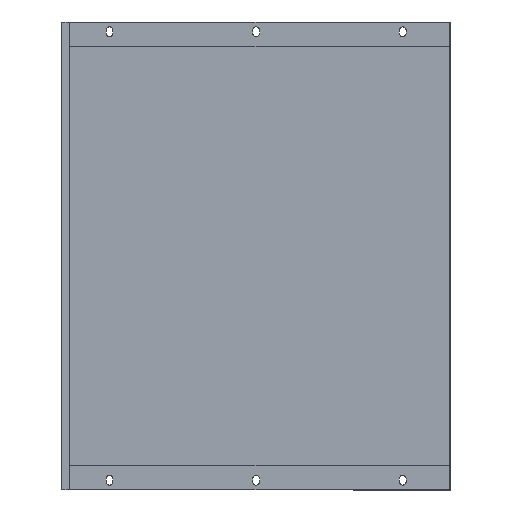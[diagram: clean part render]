
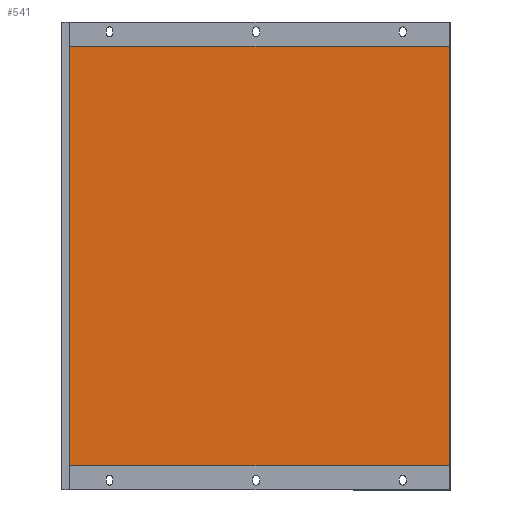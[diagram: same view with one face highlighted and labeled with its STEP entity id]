
A CAD part, front view. The second image highlights one B-rep face of the part: STEP entity #541.
In plain terms, the highlighted planar face has unit normal (0, -1, 0).
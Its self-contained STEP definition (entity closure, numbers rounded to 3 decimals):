
#42 = ORIENTED_EDGE ( 'NONE', *, *, #261, .T. ) ;
#114 = VERTEX_POINT ( 'NONE', #1220 ) ;
#120 = DIRECTION ( 'NONE',  ( 0., 1., 0. ) ) ;
#216 = LINE ( 'NONE', #869, #411 ) ;
#248 = VECTOR ( 'NONE', #563, 1000. ) ;
#261 = EDGE_CURVE ( 'NONE', #412, #114, #1106, .T. ) ;
#292 = VECTOR ( 'NONE', #1176, 1000. ) ;
#303 = VERTEX_POINT ( 'NONE', #1365 ) ;
#307 = VERTEX_POINT ( 'NONE', #830 ) ;
#374 = EDGE_CURVE ( 'NONE', #307, #114, #1060, .T. ) ;
#411 = VECTOR ( 'NONE', #739, 1000. ) ;
#412 = VERTEX_POINT ( 'NONE', #1259 ) ;
#541 = ADVANCED_FACE ( 'NONE', ( #679 ), #687, .F. ) ;
#563 = DIRECTION ( 'NONE',  ( 1., 0., 0. ) ) ;
#679 = FACE_OUTER_BOUND ( 'NONE', #879, .T. ) ;
#687 = PLANE ( 'NONE',  #1087 ) ;
#739 = DIRECTION ( 'NONE',  ( 0., 0., -1. ) ) ;
#830 = CARTESIAN_POINT ( 'NONE',  ( 388.6, 61.1, 454. ) ) ;
#833 = CARTESIAN_POINT ( 'NONE',  ( 0., 61.1, 454. ) ) ;
#868 = LINE ( 'NONE', #833, #1319 ) ;
#869 = CARTESIAN_POINT ( 'NONE',  ( -6.6, 61.1, 479. ) ) ;
#879 = EDGE_LOOP ( 'NONE', ( #1473, #920, #42, #1596 ) ) ;
#920 = ORIENTED_EDGE ( 'NONE', *, *, #1688, .T. ) ;
#948 = CARTESIAN_POINT ( 'NONE',  ( -8., 61.1, 479. ) ) ;
#1060 = LINE ( 'NONE', #1730, #292 ) ;
#1064 = EDGE_CURVE ( 'NONE', #307, #303, #868, .T. ) ;
#1087 = AXIS2_PLACEMENT_3D ( 'NONE', #948, #120, #1745 ) ;
#1106 = LINE ( 'NONE', #1671, #248 ) ;
#1176 = DIRECTION ( 'NONE',  ( 0., 0., -1. ) ) ;
#1220 = CARTESIAN_POINT ( 'NONE',  ( 388.6, 61.1, 25. ) ) ;
#1259 = CARTESIAN_POINT ( 'NONE',  ( -6.6, 61.1, 25. ) ) ;
#1319 = VECTOR ( 'NONE', #1524, 1000. ) ;
#1365 = CARTESIAN_POINT ( 'NONE',  ( -6.6, 61.1, 454. ) ) ;
#1473 = ORIENTED_EDGE ( 'NONE', *, *, #1064, .T. ) ;
#1524 = DIRECTION ( 'NONE',  ( -1., 0., 0. ) ) ;
#1596 = ORIENTED_EDGE ( 'NONE', *, *, #374, .F. ) ;
#1671 = CARTESIAN_POINT ( 'NONE',  ( 0., 61.1, 25. ) ) ;
#1688 = EDGE_CURVE ( 'NONE', #303, #412, #216, .T. ) ;
#1730 = CARTESIAN_POINT ( 'NONE',  ( 388.6, 61.1, 479. ) ) ;
#1745 = DIRECTION ( 'NONE',  ( 0., 0., 1. ) ) ;
